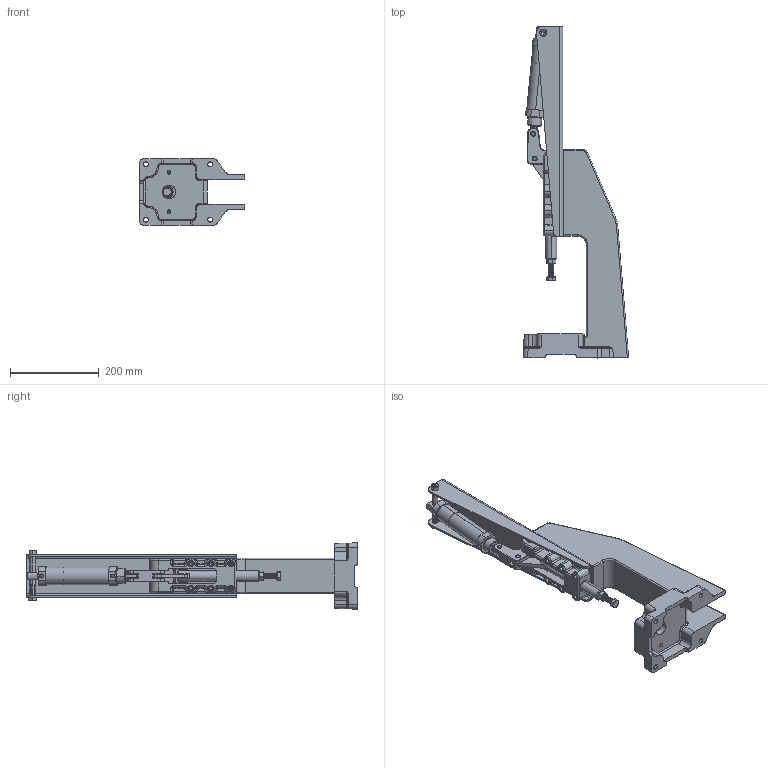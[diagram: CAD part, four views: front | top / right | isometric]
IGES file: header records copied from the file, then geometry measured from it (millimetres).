
Start section: SolidWorks IGES file using analytic representation for surfaces
Global section: file name: D:\GH Files\GH-SW-FILES\GH-A\32500A\32500PRA\GH-32500PRA.IGS; native system: SolidWorks 2006 by SolidWorks Corporation; preprocessor: SolidWorks 2006 by SolidWorks Corporation; author: Administrator; date: 060829.122544; units: millimetre
Bounding box: 238 x 750 x 150 mm (x, y, z)
Surface area: 686908.6 mm2 (no closed solid volume)
Topology: 0 solids, 0 shells, 2206 faces, 18344 edges, 18306 vertices
Faces by surface type: revolution 1194, bspline 1012
